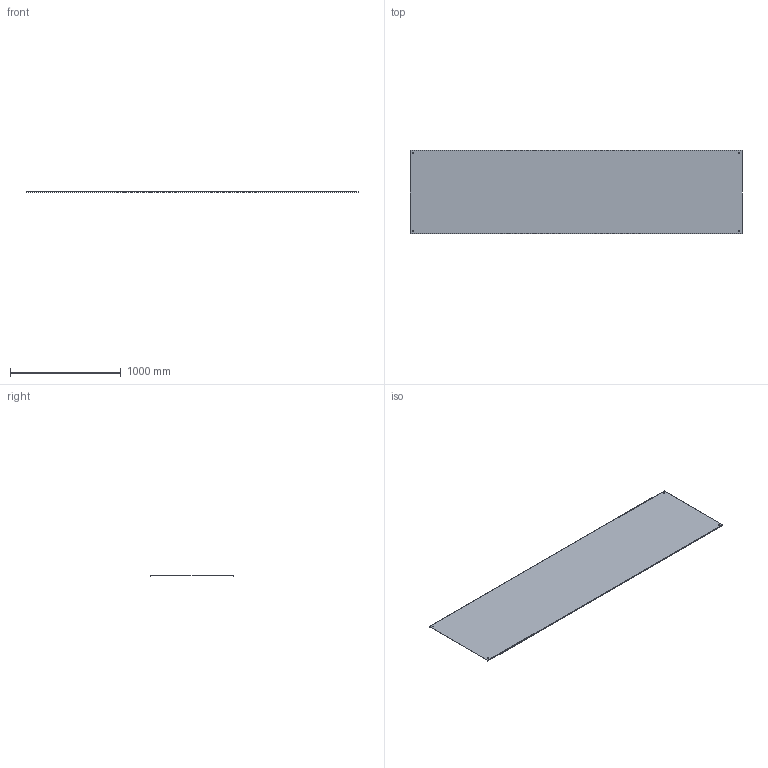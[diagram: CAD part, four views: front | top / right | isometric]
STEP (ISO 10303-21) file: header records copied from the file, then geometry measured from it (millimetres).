
FILE_DESCRIPTION(/* description */ ('','CAx-IF Rec.Pracs.---Representation and Presentation of Product Manufacturing Information (PMI)---4.0---2014-10-13'),/* implementation_level */ '2;1');
FILE_NAME(/* name */ 'Eurostrut_ECLSC-700_Straight Cover for Cable Ladder ECL.step',/* time_stamp */ '2026-09-08T14:27:34+02:00',/* author */ (''),/* organization */ (''),/* preprocessor_version */ 'ST-DEVELOPER v20.1',/* originating_system */ 'Autodesk Revit 2027 27.2.0.39',/* authorisation */ '');
FILE_SCHEMA (('AP242_MANAGED_MODEL_BASED_3D_ENGINEERING_MIM_LF { 1 0 10303 442 2 1 4 }'));
Length unit declared in the file: millimetre
Products named in the file (2): TopLevelAssembly; Extrusion
Assembly tree (1 placements, depth 2):
  TopLevelAssembly
    Extrusion
Bounding box: 3000 x 750 x 9 mm (x, y, z)
Volume: 3442028.8 mm3; surface area: 4600855.2 mm2
Topology: 1 solids, 1 shells, 18 faces, 48 edges, 32 vertices
Faces by surface type: plane 10, cylinder 8
Entity records: 618 total; most frequent: DIRECTION 106, CARTESIAN_POINT 101, ORIENTED_EDGE 96, EDGE_CURVE 48, AXIS2_PLACEMENT_3D 37, LINE 32, VECTOR 32, VERTEX_POINT 32
